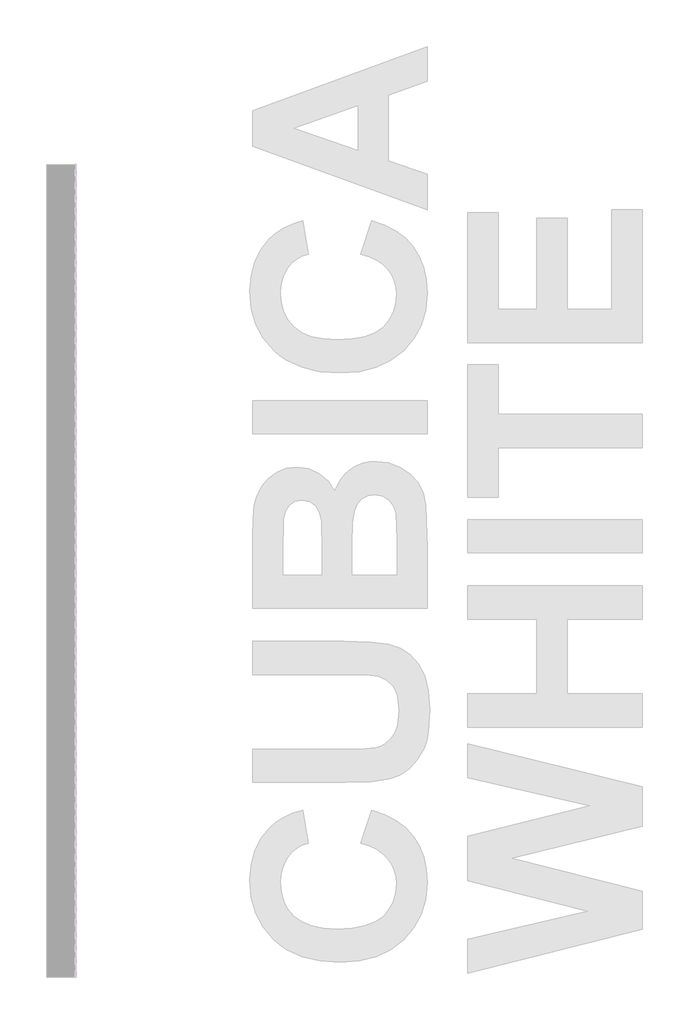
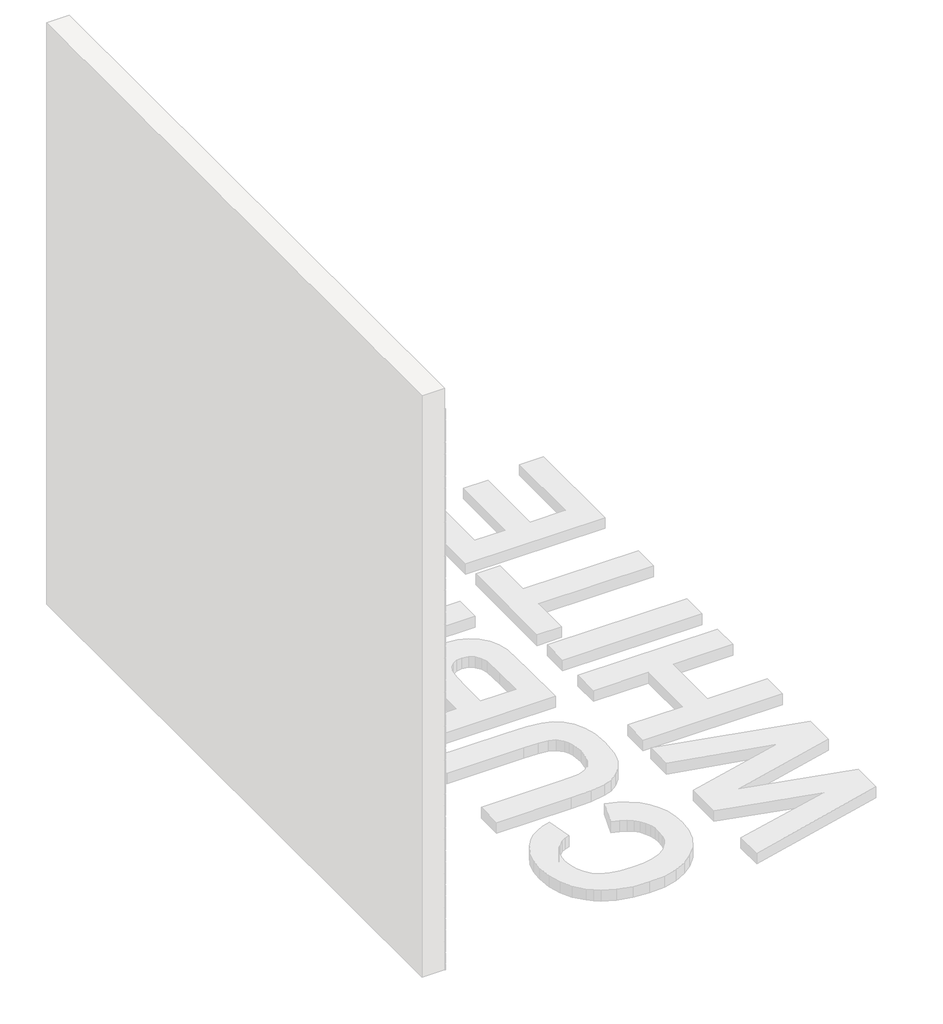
# One storey, part 105 of 121: 145 proxies.
"""IFC4 building model written with IfcOpenShell, lengths in millimetres."""

from ifc_helpers import new_model, si_unit, origin, place, context, project, spatial, transform, mapped, element, save
from components import generic_models_b2b2c5c1, generic_models_9bf73f6f, generic_models_5d175859

model = new_model("IFC4")

# Units and contexts
model_context = context("Model", 3, world=origin())
ifc_project = project(units=[si_unit("LENGTHUNIT", "METRE", prefix="MILLI")], contexts=[model_context])

# Site, building, storey
site = spatial("IfcSite", under=ifc_project)
building = spatial("IfcBuilding", under=site)
storey = spatial("IfcBuildingStorey", under=building, Name="PORTOBELLO - SHOWROOM", Elevation=0.0)

# Proxies
placement = place(None, origin())
generic_models_shape = generic_models_b2b2c5c1(model_context)
element("IfcBuildingElementProxy", 1, Name="PBSHOP - CUBICA WHITE 4,8X8,3 : CUBICA WHITE - POSIÇÃO 01", ObjectType="PBSHOP - CUBICA WHITE 4,8X8,3 : CUBICA WHITE - POSIÇÃO 01", at=placement, inside=storey, context=model_context, shape_type="MappedRepresentation", body=[
    mapped(generic_models_shape, transform((150369.5341846, 20014.1011688, 197.2914436), x_axis=(0.0, 1.0, 0.0), y_axis=(0.0, 0.0, 1.0), z_axis=(1.0, 0.0, 0.0))),
])
element("IfcBuildingElementProxy", 2, Name="PBSHOP - CUBICA WHITE 4,8X8,3 : CUBICA WHITE - POSIÇÃO 01", ObjectType="PBSHOP - CUBICA WHITE 4,8X8,3 : CUBICA WHITE - POSIÇÃO 01", at=placement, inside=storey, context=model_context, shape_type="MappedRepresentation", body=[
    mapped(generic_models_shape, transform((150369.5341846, 20104.940438, 197.2914436), x_axis=(0.0, 1.0, 0.0), y_axis=(0.0, 0.0, 1.0), z_axis=(1.0, 0.0, 0.0))),
])
element("IfcBuildingElementProxy", 3, Name="PBSHOP - CUBICA WHITE 4,8X8,3 : CUBICA WHITE - POSIÇÃO 01", ObjectType="PBSHOP - CUBICA WHITE 4,8X8,3 : CUBICA WHITE - POSIÇÃO 01", at=placement, inside=storey, context=model_context, shape_type="MappedRepresentation", body=[
    mapped(generic_models_shape, transform((150369.5341846, 20195.7797073, 197.2914436), x_axis=(0.0, 1.0, 0.0), y_axis=(0.0, 0.0, 1.0), z_axis=(1.0, 0.0, 0.0))),
])
element("IfcBuildingElementProxy", 4, Name="PBSHOP - CUBICA WHITE 4,8X8,3 : CUBICA WHITE - POSIÇÃO 01", ObjectType="PBSHOP - CUBICA WHITE 4,8X8,3 : CUBICA WHITE - POSIÇÃO 01", at=placement, inside=storey, context=model_context, shape_type="MappedRepresentation", body=[
    mapped(generic_models_shape, transform((150369.5341846, 20286.6189765, 197.2914436), x_axis=(0.0, 1.0, 0.0), y_axis=(0.0, 0.0, 1.0), z_axis=(1.0, 0.0, 0.0))),
])
element("IfcBuildingElementProxy", 5, Name="PBSHOP - CUBICA WHITE 4,8X8,3 : CUBICA WHITE - POSIÇÃO 01", ObjectType="PBSHOP - CUBICA WHITE 4,8X8,3 : CUBICA WHITE - POSIÇÃO 01", at=placement, inside=storey, context=model_context, shape_type="MappedRepresentation", body=[
    mapped(generic_models_shape, transform((150369.5341846, 20377.4582457, 197.2914436), x_axis=(0.0, 1.0, 0.0), y_axis=(0.0, 0.0, 1.0), z_axis=(1.0, 0.0, 0.0))),
])
element("IfcBuildingElementProxy", 6, Name="PBSHOP - CUBICA WHITE 4,8X8,3 : CUBICA WHITE - POSIÇÃO 01", ObjectType="PBSHOP - CUBICA WHITE 4,8X8,3 : CUBICA WHITE - POSIÇÃO 01", at=placement, inside=storey, context=model_context, shape_type="MappedRepresentation", body=[
    mapped(generic_models_shape, transform((150369.5341846, 20468.297515, 197.2914436), x_axis=(0.0, 1.0, 0.0), y_axis=(0.0, 0.0, 1.0), z_axis=(1.0, 0.0, 0.0))),
])
element("IfcBuildingElementProxy", 7, Name="PBSHOP - CUBICA WHITE 4,8X8,3 : CUBICA WHITE - POSIÇÃO 01", ObjectType="PBSHOP - CUBICA WHITE 4,8X8,3 : CUBICA WHITE - POSIÇÃO 01", at=placement, inside=storey, context=model_context, shape_type="MappedRepresentation", body=[
    mapped(generic_models_shape, transform((150369.5341846, 20559.1367842, 197.2914436), x_axis=(0.0, 1.0, 0.0), y_axis=(0.0, 0.0, 1.0), z_axis=(1.0, 0.0, 0.0))),
])
element("IfcBuildingElementProxy", 8, Name="PBSHOP - CUBICA WHITE 4,8X8,3 : CUBICA WHITE - POSIÇÃO 01", ObjectType="PBSHOP - CUBICA WHITE 4,8X8,3 : CUBICA WHITE - POSIÇÃO 01", at=placement, inside=storey, context=model_context, shape_type="MappedRepresentation", body=[
    mapped(generic_models_shape, transform((150369.5341846, 20649.9760535, 197.2914436), x_axis=(0.0, 1.0, 0.0), y_axis=(0.0, 0.0, 1.0), z_axis=(1.0, 0.0, 0.0))),
])
element("IfcBuildingElementProxy", 9, Name="PBSHOP - CUBICA WHITE 4,8X8,3 : CUBICA WHITE - POSIÇÃO 01", ObjectType="PBSHOP - CUBICA WHITE 4,8X8,3 : CUBICA WHITE - POSIÇÃO 01", at=placement, inside=storey, context=model_context, shape_type="MappedRepresentation", body=[
    mapped(generic_models_shape, transform((150369.5341846, 20740.8153227, 197.2914436), x_axis=(0.0, 1.0, 0.0), y_axis=(0.0, 0.0, 1.0), z_axis=(1.0, 0.0, 0.0))),
])
element("IfcBuildingElementProxy", 10, Name="PBSHOP - CUBICA WHITE 4,8X8,3 : CUBICA WHITE - POSIÇÃO 01", ObjectType="PBSHOP - CUBICA WHITE 4,8X8,3 : CUBICA WHITE - POSIÇÃO 01", at=placement, inside=storey, context=model_context, shape_type="MappedRepresentation", body=[
    mapped(generic_models_shape, transform((150369.5341846, 20831.654592, 197.2914436), x_axis=(0.0, 1.0, 0.0), y_axis=(0.0, 0.0, 1.0), z_axis=(1.0, 0.0, 0.0))),
])
element("IfcBuildingElementProxy", 11, Name="PBSHOP - CUBICA WHITE 4,8X8,3 : CUBICA WHITE - POSIÇÃO 01", ObjectType="PBSHOP - CUBICA WHITE 4,8X8,3 : CUBICA WHITE - POSIÇÃO 01", at=placement, inside=storey, context=model_context, shape_type="MappedRepresentation", body=[
    mapped(generic_models_shape, transform((150369.5341846, 20922.4938612, 197.2914436), x_axis=(0.0, 1.0, 0.0), y_axis=(0.0, 0.0, 1.0), z_axis=(1.0, 0.0, 0.0))),
])
element("IfcBuildingElementProxy", 12, Name="PBSHOP - CUBICA WHITE 4,8X8,3 : CUBICA WHITE - POSIÇÃO 01", ObjectType="PBSHOP - CUBICA WHITE 4,8X8,3 : CUBICA WHITE - POSIÇÃO 01", at=placement, inside=storey, context=model_context, shape_type="MappedRepresentation", body=[
    mapped(generic_models_shape, transform((150369.5341846, 20059.5208034, 276.2260819), x_axis=(0.0, 1.0, 0.0), y_axis=(0.0, 0.0, 1.0), z_axis=(1.0, 0.0, 0.0))),
])
element("IfcBuildingElementProxy", 13, Name="PBSHOP - CUBICA WHITE 4,8X8,3 : CUBICA WHITE - POSIÇÃO 01", ObjectType="PBSHOP - CUBICA WHITE 4,8X8,3 : CUBICA WHITE - POSIÇÃO 01", at=placement, inside=storey, context=model_context, shape_type="MappedRepresentation", body=[
    mapped(generic_models_shape, transform((150369.5341846, 20150.3600726, 276.2260819), x_axis=(0.0, 1.0, 0.0), y_axis=(0.0, 0.0, 1.0), z_axis=(1.0, 0.0, 0.0))),
])
element("IfcBuildingElementProxy", 14, Name="PBSHOP - CUBICA WHITE 4,8X8,3 : CUBICA WHITE - POSIÇÃO 01", ObjectType="PBSHOP - CUBICA WHITE 4,8X8,3 : CUBICA WHITE - POSIÇÃO 01", at=placement, inside=storey, context=model_context, shape_type="MappedRepresentation", body=[
    mapped(generic_models_shape, transform((150369.5341846, 20241.1993419, 276.2260819), x_axis=(0.0, 1.0, 0.0), y_axis=(0.0, 0.0, 1.0), z_axis=(1.0, 0.0, 0.0))),
])
element("IfcBuildingElementProxy", 15, Name="PBSHOP - CUBICA WHITE 4,8X8,3 : CUBICA WHITE - POSIÇÃO 01", ObjectType="PBSHOP - CUBICA WHITE 4,8X8,3 : CUBICA WHITE - POSIÇÃO 01", at=placement, inside=storey, context=model_context, shape_type="MappedRepresentation", body=[
    mapped(generic_models_shape, transform((150369.5341846, 20332.0386111, 276.2260819), x_axis=(0.0, 1.0, 0.0), y_axis=(0.0, 0.0, 1.0), z_axis=(1.0, 0.0, 0.0))),
])
element("IfcBuildingElementProxy", 16, Name="PBSHOP - CUBICA WHITE 4,8X8,3 : CUBICA WHITE - POSIÇÃO 01", ObjectType="PBSHOP - CUBICA WHITE 4,8X8,3 : CUBICA WHITE - POSIÇÃO 01", at=placement, inside=storey, context=model_context, shape_type="MappedRepresentation", body=[
    mapped(generic_models_shape, transform((150369.5341846, 20422.8778804, 276.2260819), x_axis=(0.0, 1.0, 0.0), y_axis=(0.0, 0.0, 1.0), z_axis=(1.0, 0.0, 0.0))),
])
element("IfcBuildingElementProxy", 17, Name="PBSHOP - CUBICA WHITE 4,8X8,3 : CUBICA WHITE - POSIÇÃO 01", ObjectType="PBSHOP - CUBICA WHITE 4,8X8,3 : CUBICA WHITE - POSIÇÃO 01", at=placement, inside=storey, context=model_context, shape_type="MappedRepresentation", body=[
    mapped(generic_models_shape, transform((150369.5341846, 20513.7171496, 276.2260819), x_axis=(0.0, 1.0, 0.0), y_axis=(0.0, 0.0, 1.0), z_axis=(1.0, 0.0, 0.0))),
])
element("IfcBuildingElementProxy", 18, Name="PBSHOP - CUBICA WHITE 4,8X8,3 : CUBICA WHITE - POSIÇÃO 01", ObjectType="PBSHOP - CUBICA WHITE 4,8X8,3 : CUBICA WHITE - POSIÇÃO 01", at=placement, inside=storey, context=model_context, shape_type="MappedRepresentation", body=[
    mapped(generic_models_shape, transform((150369.5341846, 20604.5564189, 276.2260819), x_axis=(0.0, 1.0, 0.0), y_axis=(0.0, 0.0, 1.0), z_axis=(1.0, 0.0, 0.0))),
])
element("IfcBuildingElementProxy", 19, Name="PBSHOP - CUBICA WHITE 4,8X8,3 : CUBICA WHITE - POSIÇÃO 01", ObjectType="PBSHOP - CUBICA WHITE 4,8X8,3 : CUBICA WHITE - POSIÇÃO 01", at=placement, inside=storey, context=model_context, shape_type="MappedRepresentation", body=[
    mapped(generic_models_shape, transform((150369.5341846, 20695.3956881, 276.2260819), x_axis=(0.0, 1.0, 0.0), y_axis=(0.0, 0.0, 1.0), z_axis=(1.0, 0.0, 0.0))),
])
element("IfcBuildingElementProxy", 20, Name="PBSHOP - CUBICA WHITE 4,8X8,3 : CUBICA WHITE - POSIÇÃO 01", ObjectType="PBSHOP - CUBICA WHITE 4,8X8,3 : CUBICA WHITE - POSIÇÃO 01", at=placement, inside=storey, context=model_context, shape_type="MappedRepresentation", body=[
    mapped(generic_models_shape, transform((150369.5341846, 20786.2349573, 276.2260819), x_axis=(0.0, 1.0, 0.0), y_axis=(0.0, 0.0, 1.0), z_axis=(1.0, 0.0, 0.0))),
])
element("IfcBuildingElementProxy", 21, Name="PBSHOP - CUBICA WHITE 4,8X8,3 : CUBICA WHITE - POSIÇÃO 01", ObjectType="PBSHOP - CUBICA WHITE 4,8X8,3 : CUBICA WHITE - POSIÇÃO 01", at=placement, inside=storey, context=model_context, shape_type="MappedRepresentation", body=[
    mapped(generic_models_shape, transform((150369.5341846, 20877.0742266, 276.2260819), x_axis=(0.0, 1.0, 0.0), y_axis=(0.0, 0.0, 1.0), z_axis=(1.0, 0.0, 0.0))),
])
element("IfcBuildingElementProxy", 22, Name="PBSHOP - CUBICA WHITE 4,8X8,3 : CUBICA WHITE - POSIÇÃO 01", ObjectType="PBSHOP - CUBICA WHITE 4,8X8,3 : CUBICA WHITE - POSIÇÃO 01", at=placement, inside=storey, context=model_context, shape_type="MappedRepresentation", body=[
    mapped(generic_models_shape, transform((150369.5341846, 20967.9134958, 276.2260819), x_axis=(0.0, 1.0, 0.0), y_axis=(0.0, 0.0, 1.0), z_axis=(1.0, 0.0, 0.0))),
])
element("IfcBuildingElementProxy", 23, Name="PBSHOP - CUBICA WHITE 4,8X8,3 : CUBICA WHITE - POSIÇÃO 01", ObjectType="PBSHOP - CUBICA WHITE 4,8X8,3 : CUBICA WHITE - POSIÇÃO 01", at=placement, inside=storey, context=model_context, shape_type="MappedRepresentation", body=[
    mapped(generic_models_shape, transform((150369.5341846, 20014.1011688, 355.1607203), x_axis=(0.0, 1.0, 0.0), y_axis=(0.0, 0.0, 1.0), z_axis=(1.0, 0.0, 0.0))),
])
element("IfcBuildingElementProxy", 24, Name="PBSHOP - CUBICA WHITE 4,8X8,3 : CUBICA WHITE - POSIÇÃO 01", ObjectType="PBSHOP - CUBICA WHITE 4,8X8,3 : CUBICA WHITE - POSIÇÃO 01", at=placement, inside=storey, context=model_context, shape_type="MappedRepresentation", body=[
    mapped(generic_models_shape, transform((150369.5341846, 20104.940438, 355.1607203), x_axis=(0.0, 1.0, 0.0), y_axis=(0.0, 0.0, 1.0), z_axis=(1.0, 0.0, 0.0))),
])
element("IfcBuildingElementProxy", 25, Name="PBSHOP - CUBICA WHITE 4,8X8,3 : CUBICA WHITE - POSIÇÃO 01", ObjectType="PBSHOP - CUBICA WHITE 4,8X8,3 : CUBICA WHITE - POSIÇÃO 01", at=placement, inside=storey, context=model_context, shape_type="MappedRepresentation", body=[
    mapped(generic_models_shape, transform((150369.5341846, 20195.7797073, 355.1607203), x_axis=(0.0, 1.0, 0.0), y_axis=(0.0, 0.0, 1.0), z_axis=(1.0, 0.0, 0.0))),
])
element("IfcBuildingElementProxy", 26, Name="PBSHOP - CUBICA WHITE 4,8X8,3 : CUBICA WHITE - POSIÇÃO 01", ObjectType="PBSHOP - CUBICA WHITE 4,8X8,3 : CUBICA WHITE - POSIÇÃO 01", at=placement, inside=storey, context=model_context, shape_type="MappedRepresentation", body=[
    mapped(generic_models_shape, transform((150369.5341846, 20286.6189765, 355.1607203), x_axis=(0.0, 1.0, 0.0), y_axis=(0.0, 0.0, 1.0), z_axis=(1.0, 0.0, 0.0))),
])
element("IfcBuildingElementProxy", 27, Name="PBSHOP - CUBICA WHITE 4,8X8,3 : CUBICA WHITE - POSIÇÃO 01", ObjectType="PBSHOP - CUBICA WHITE 4,8X8,3 : CUBICA WHITE - POSIÇÃO 01", at=placement, inside=storey, context=model_context, shape_type="MappedRepresentation", body=[
    mapped(generic_models_shape, transform((150369.5341846, 20377.4582457, 355.1607203), x_axis=(0.0, 1.0, 0.0), y_axis=(0.0, 0.0, 1.0), z_axis=(1.0, 0.0, 0.0))),
])
element("IfcBuildingElementProxy", 28, Name="PBSHOP - CUBICA WHITE 4,8X8,3 : CUBICA WHITE - POSIÇÃO 01", ObjectType="PBSHOP - CUBICA WHITE 4,8X8,3 : CUBICA WHITE - POSIÇÃO 01", at=placement, inside=storey, context=model_context, shape_type="MappedRepresentation", body=[
    mapped(generic_models_shape, transform((150369.5341846, 20468.297515, 355.1607203), x_axis=(0.0, 1.0, 0.0), y_axis=(0.0, 0.0, 1.0), z_axis=(1.0, 0.0, 0.0))),
])
element("IfcBuildingElementProxy", 29, Name="PBSHOP - CUBICA WHITE 4,8X8,3 : CUBICA WHITE - POSIÇÃO 01", ObjectType="PBSHOP - CUBICA WHITE 4,8X8,3 : CUBICA WHITE - POSIÇÃO 01", at=placement, inside=storey, context=model_context, shape_type="MappedRepresentation", body=[
    mapped(generic_models_shape, transform((150369.5341846, 20559.1367842, 355.1607203), x_axis=(0.0, 1.0, 0.0), y_axis=(0.0, 0.0, 1.0), z_axis=(1.0, 0.0, 0.0))),
])
element("IfcBuildingElementProxy", 30, Name="PBSHOP - CUBICA WHITE 4,8X8,3 : CUBICA WHITE - POSIÇÃO 01", ObjectType="PBSHOP - CUBICA WHITE 4,8X8,3 : CUBICA WHITE - POSIÇÃO 01", at=placement, inside=storey, context=model_context, shape_type="MappedRepresentation", body=[
    mapped(generic_models_shape, transform((150369.5341846, 20649.9760535, 355.1607203), x_axis=(0.0, 1.0, 0.0), y_axis=(0.0, 0.0, 1.0), z_axis=(1.0, 0.0, 0.0))),
])
element("IfcBuildingElementProxy", 31, Name="PBSHOP - CUBICA WHITE 4,8X8,3 : CUBICA WHITE - POSIÇÃO 01", ObjectType="PBSHOP - CUBICA WHITE 4,8X8,3 : CUBICA WHITE - POSIÇÃO 01", at=placement, inside=storey, context=model_context, shape_type="MappedRepresentation", body=[
    mapped(generic_models_shape, transform((150369.5341846, 20740.8153227, 355.1607203), x_axis=(0.0, 1.0, 0.0), y_axis=(0.0, 0.0, 1.0), z_axis=(1.0, 0.0, 0.0))),
])
element("IfcBuildingElementProxy", 32, Name="PBSHOP - CUBICA WHITE 4,8X8,3 : CUBICA WHITE - POSIÇÃO 01", ObjectType="PBSHOP - CUBICA WHITE 4,8X8,3 : CUBICA WHITE - POSIÇÃO 01", at=placement, inside=storey, context=model_context, shape_type="MappedRepresentation", body=[
    mapped(generic_models_shape, transform((150369.5341846, 20831.654592, 355.1607203), x_axis=(0.0, 1.0, 0.0), y_axis=(0.0, 0.0, 1.0), z_axis=(1.0, 0.0, 0.0))),
])
element("IfcBuildingElementProxy", 33, Name="PBSHOP - CUBICA WHITE 4,8X8,3 : CUBICA WHITE - POSIÇÃO 01", ObjectType="PBSHOP - CUBICA WHITE 4,8X8,3 : CUBICA WHITE - POSIÇÃO 01", at=placement, inside=storey, context=model_context, shape_type="MappedRepresentation", body=[
    mapped(generic_models_shape, transform((150369.5341846, 20922.4938612, 355.1607203), x_axis=(0.0, 1.0, 0.0), y_axis=(0.0, 0.0, 1.0), z_axis=(1.0, 0.0, 0.0))),
])
element("IfcBuildingElementProxy", 34, Name="PBSHOP - CUBICA WHITE 4,8X8,3 : CUBICA WHITE - POSIÇÃO 01", ObjectType="PBSHOP - CUBICA WHITE 4,8X8,3 : CUBICA WHITE - POSIÇÃO 01", at=placement, inside=storey, context=model_context, shape_type="MappedRepresentation", body=[
    mapped(generic_models_shape, transform((150369.5341846, 20059.5208034, 434.0953587), x_axis=(0.0, 1.0, 0.0), y_axis=(0.0, 0.0, 1.0), z_axis=(1.0, 0.0, 0.0))),
])
element("IfcBuildingElementProxy", 35, Name="PBSHOP - CUBICA WHITE 4,8X8,3 : CUBICA WHITE - POSIÇÃO 01", ObjectType="PBSHOP - CUBICA WHITE 4,8X8,3 : CUBICA WHITE - POSIÇÃO 01", at=placement, inside=storey, context=model_context, shape_type="MappedRepresentation", body=[
    mapped(generic_models_shape, transform((150369.5341846, 20150.3600726, 434.0953587), x_axis=(0.0, 1.0, 0.0), y_axis=(0.0, 0.0, 1.0), z_axis=(1.0, 0.0, 0.0))),
])
element("IfcBuildingElementProxy", 36, Name="PBSHOP - CUBICA WHITE 4,8X8,3 : CUBICA WHITE - POSIÇÃO 01", ObjectType="PBSHOP - CUBICA WHITE 4,8X8,3 : CUBICA WHITE - POSIÇÃO 01", at=placement, inside=storey, context=model_context, shape_type="MappedRepresentation", body=[
    mapped(generic_models_shape, transform((150369.5341846, 20241.1993419, 434.0953587), x_axis=(0.0, 1.0, 0.0), y_axis=(0.0, 0.0, 1.0), z_axis=(1.0, 0.0, 0.0))),
])
element("IfcBuildingElementProxy", 37, Name="PBSHOP - CUBICA WHITE 4,8X8,3 : CUBICA WHITE - POSIÇÃO 01", ObjectType="PBSHOP - CUBICA WHITE 4,8X8,3 : CUBICA WHITE - POSIÇÃO 01", at=placement, inside=storey, context=model_context, shape_type="MappedRepresentation", body=[
    mapped(generic_models_shape, transform((150369.5341846, 20332.0386111, 434.0953587), x_axis=(0.0, 1.0, 0.0), y_axis=(0.0, 0.0, 1.0), z_axis=(1.0, 0.0, 0.0))),
])
element("IfcBuildingElementProxy", 38, Name="PBSHOP - CUBICA WHITE 4,8X8,3 : CUBICA WHITE - POSIÇÃO 01", ObjectType="PBSHOP - CUBICA WHITE 4,8X8,3 : CUBICA WHITE - POSIÇÃO 01", at=placement, inside=storey, context=model_context, shape_type="MappedRepresentation", body=[
    mapped(generic_models_shape, transform((150369.5341846, 20422.8778804, 434.0953587), x_axis=(0.0, 1.0, 0.0), y_axis=(0.0, 0.0, 1.0), z_axis=(1.0, 0.0, 0.0))),
])
element("IfcBuildingElementProxy", 39, Name="PBSHOP - CUBICA WHITE 4,8X8,3 : CUBICA WHITE - POSIÇÃO 01", ObjectType="PBSHOP - CUBICA WHITE 4,8X8,3 : CUBICA WHITE - POSIÇÃO 01", at=placement, inside=storey, context=model_context, shape_type="MappedRepresentation", body=[
    mapped(generic_models_shape, transform((150369.5341846, 20513.7171496, 434.0953587), x_axis=(0.0, 1.0, 0.0), y_axis=(0.0, 0.0, 1.0), z_axis=(1.0, 0.0, 0.0))),
])
element("IfcBuildingElementProxy", 40, Name="PBSHOP - CUBICA WHITE 4,8X8,3 : CUBICA WHITE - POSIÇÃO 01", ObjectType="PBSHOP - CUBICA WHITE 4,8X8,3 : CUBICA WHITE - POSIÇÃO 01", at=placement, inside=storey, context=model_context, shape_type="MappedRepresentation", body=[
    mapped(generic_models_shape, transform((150369.5341846, 20604.5564189, 434.0953587), x_axis=(0.0, 1.0, 0.0), y_axis=(0.0, 0.0, 1.0), z_axis=(1.0, 0.0, 0.0))),
])
element("IfcBuildingElementProxy", 41, Name="PBSHOP - CUBICA WHITE 4,8X8,3 : CUBICA WHITE - POSIÇÃO 01", ObjectType="PBSHOP - CUBICA WHITE 4,8X8,3 : CUBICA WHITE - POSIÇÃO 01", at=placement, inside=storey, context=model_context, shape_type="MappedRepresentation", body=[
    mapped(generic_models_shape, transform((150369.5341846, 20695.3956881, 434.0953587), x_axis=(0.0, 1.0, 0.0), y_axis=(0.0, 0.0, 1.0), z_axis=(1.0, 0.0, 0.0))),
])
element("IfcBuildingElementProxy", 42, Name="PBSHOP - CUBICA WHITE 4,8X8,3 : CUBICA WHITE - POSIÇÃO 01", ObjectType="PBSHOP - CUBICA WHITE 4,8X8,3 : CUBICA WHITE - POSIÇÃO 01", at=placement, inside=storey, context=model_context, shape_type="MappedRepresentation", body=[
    mapped(generic_models_shape, transform((150369.5341846, 20786.2349573, 434.0953587), x_axis=(0.0, 1.0, 0.0), y_axis=(0.0, 0.0, 1.0), z_axis=(1.0, 0.0, 0.0))),
])
element("IfcBuildingElementProxy", 43, Name="PBSHOP - CUBICA WHITE 4,8X8,3 : CUBICA WHITE - POSIÇÃO 01", ObjectType="PBSHOP - CUBICA WHITE 4,8X8,3 : CUBICA WHITE - POSIÇÃO 01", at=placement, inside=storey, context=model_context, shape_type="MappedRepresentation", body=[
    mapped(generic_models_shape, transform((150369.5341846, 20877.0742266, 434.0953587), x_axis=(0.0, 1.0, 0.0), y_axis=(0.0, 0.0, 1.0), z_axis=(1.0, 0.0, 0.0))),
])
element("IfcBuildingElementProxy", 44, Name="PBSHOP - CUBICA WHITE 4,8X8,3 : CUBICA WHITE - POSIÇÃO 01", ObjectType="PBSHOP - CUBICA WHITE 4,8X8,3 : CUBICA WHITE - POSIÇÃO 01", at=placement, inside=storey, context=model_context, shape_type="MappedRepresentation", body=[
    mapped(generic_models_shape, transform((150369.5341846, 20967.9134958, 434.0953587), x_axis=(0.0, 1.0, 0.0), y_axis=(0.0, 0.0, 1.0), z_axis=(1.0, 0.0, 0.0))),
])
element("IfcBuildingElementProxy", 45, Name="PBSHOP - CUBICA WHITE 4,8X8,3 : CUBICA WHITE - POSIÇÃO 01", ObjectType="PBSHOP - CUBICA WHITE 4,8X8,3 : CUBICA WHITE - POSIÇÃO 01", at=placement, inside=storey, context=model_context, shape_type="MappedRepresentation", body=[
    mapped(generic_models_shape, transform((150369.5341846, 20014.1011688, 513.0299971), x_axis=(0.0, 1.0, 0.0), y_axis=(0.0, 0.0, 1.0), z_axis=(1.0, 0.0, 0.0))),
])
element("IfcBuildingElementProxy", 46, Name="PBSHOP - CUBICA WHITE 4,8X8,3 : CUBICA WHITE - POSIÇÃO 01", ObjectType="PBSHOP - CUBICA WHITE 4,8X8,3 : CUBICA WHITE - POSIÇÃO 01", at=placement, inside=storey, context=model_context, shape_type="MappedRepresentation", body=[
    mapped(generic_models_shape, transform((150369.5341846, 20104.940438, 513.0299971), x_axis=(0.0, 1.0, 0.0), y_axis=(0.0, 0.0, 1.0), z_axis=(1.0, 0.0, 0.0))),
])
generic_models_2_shape = generic_models_9bf73f6f(model_context)
element("IfcBuildingElementProxy", 47, Name="PBSHOP - CUBICA WHITE 4,8X8,3 : CUBICA WHITE - POSIÇÃO 03", ObjectType="PBSHOP - CUBICA WHITE 4,8X8,3 : CUBICA WHITE - POSIÇÃO 03", at=placement, inside=storey, context=model_context, shape_type="MappedRepresentation", body=[
    mapped(generic_models_2_shape, transform((150369.5341846, 20127.6524145, 78.8482756), x_axis=(0.0, 1.0, 0.0), y_axis=(0.0, 0.0, 1.0), z_axis=(1.0, 0.0, 0.0))),
])
element("IfcBuildingElementProxy", 48, Name="PBSHOP - CUBICA WHITE 4,8X8,3 : CUBICA WHITE - POSIÇÃO 03", ObjectType="PBSHOP - CUBICA WHITE 4,8X8,3 : CUBICA WHITE - POSIÇÃO 03", at=placement, inside=storey, context=model_context, shape_type="MappedRepresentation", body=[
    mapped(generic_models_2_shape, transform((150369.5341846, 20218.4916837, 78.8482756), x_axis=(0.0, 1.0, 0.0), y_axis=(0.0, 0.0, 1.0), z_axis=(1.0, 0.0, 0.0))),
])
element("IfcBuildingElementProxy", 49, Name="PBSHOP - CUBICA WHITE 4,8X8,3 : CUBICA WHITE - POSIÇÃO 03", ObjectType="PBSHOP - CUBICA WHITE 4,8X8,3 : CUBICA WHITE - POSIÇÃO 03", at=placement, inside=storey, context=model_context, shape_type="MappedRepresentation", body=[
    mapped(generic_models_2_shape, transform((150369.5341846, 20309.330953, 78.8482756), x_axis=(0.0, 1.0, 0.0), y_axis=(0.0, 0.0, 1.0), z_axis=(1.0, 0.0, 0.0))),
])
element("IfcBuildingElementProxy", 50, Name="PBSHOP - CUBICA WHITE 4,8X8,3 : CUBICA WHITE - POSIÇÃO 03", ObjectType="PBSHOP - CUBICA WHITE 4,8X8,3 : CUBICA WHITE - POSIÇÃO 03", at=placement, inside=storey, context=model_context, shape_type="MappedRepresentation", body=[
    mapped(generic_models_2_shape, transform((150369.5341846, 20400.1702222, 78.8482756), x_axis=(0.0, 1.0, 0.0), y_axis=(0.0, 0.0, 1.0), z_axis=(1.0, 0.0, 0.0))),
])
element("IfcBuildingElementProxy", 51, Name="PBSHOP - CUBICA WHITE 4,8X8,3 : CUBICA WHITE - POSIÇÃO 03", ObjectType="PBSHOP - CUBICA WHITE 4,8X8,3 : CUBICA WHITE - POSIÇÃO 03", at=placement, inside=storey, context=model_context, shape_type="MappedRepresentation", body=[
    mapped(generic_models_2_shape, transform((150369.5341846, 20491.0094915, 78.8482756), x_axis=(0.0, 1.0, 0.0), y_axis=(0.0, 0.0, 1.0), z_axis=(1.0, 0.0, 0.0))),
])
element("IfcBuildingElementProxy", 52, Name="PBSHOP - CUBICA WHITE 4,8X8,3 : CUBICA WHITE - POSIÇÃO 03", ObjectType="PBSHOP - CUBICA WHITE 4,8X8,3 : CUBICA WHITE - POSIÇÃO 03", at=placement, inside=storey, context=model_context, shape_type="MappedRepresentation", body=[
    mapped(generic_models_2_shape, transform((150369.5341846, 20581.8487607, 78.8482756), x_axis=(0.0, 1.0, 0.0), y_axis=(0.0, 0.0, 1.0), z_axis=(1.0, 0.0, 0.0))),
])
element("IfcBuildingElementProxy", 53, Name="PBSHOP - CUBICA WHITE 4,8X8,3 : CUBICA WHITE - POSIÇÃO 03", ObjectType="PBSHOP - CUBICA WHITE 4,8X8,3 : CUBICA WHITE - POSIÇÃO 03", at=placement, inside=storey, context=model_context, shape_type="MappedRepresentation", body=[
    mapped(generic_models_2_shape, transform((150369.5341846, 20672.6880299, 78.8482756), x_axis=(0.0, 1.0, 0.0), y_axis=(0.0, 0.0, 1.0), z_axis=(1.0, 0.0, 0.0))),
])
element("IfcBuildingElementProxy", 54, Name="PBSHOP - CUBICA WHITE 4,8X8,3 : CUBICA WHITE - POSIÇÃO 03", ObjectType="PBSHOP - CUBICA WHITE 4,8X8,3 : CUBICA WHITE - POSIÇÃO 03", at=placement, inside=storey, context=model_context, shape_type="MappedRepresentation", body=[
    mapped(generic_models_2_shape, transform((150369.5341846, 20763.5272992, 78.8482756), x_axis=(0.0, 1.0, 0.0), y_axis=(0.0, 0.0, 1.0), z_axis=(1.0, 0.0, 0.0))),
])
element("IfcBuildingElementProxy", 55, Name="PBSHOP - CUBICA WHITE 4,8X8,3 : CUBICA WHITE - POSIÇÃO 03", ObjectType="PBSHOP - CUBICA WHITE 4,8X8,3 : CUBICA WHITE - POSIÇÃO 03", at=placement, inside=storey, context=model_context, shape_type="MappedRepresentation", body=[
    mapped(generic_models_2_shape, transform((150369.5341846, 20854.3665684, 78.8482756), x_axis=(0.0, 1.0, 0.0), y_axis=(0.0, 0.0, 1.0), z_axis=(1.0, 0.0, 0.0))),
])
element("IfcBuildingElementProxy", 56, Name="PBSHOP - CUBICA WHITE 4,8X8,3 : CUBICA WHITE - POSIÇÃO 03", ObjectType="PBSHOP - CUBICA WHITE 4,8X8,3 : CUBICA WHITE - POSIÇÃO 03", at=placement, inside=storey, context=model_context, shape_type="MappedRepresentation", body=[
    mapped(generic_models_2_shape, transform((150369.5341846, 20945.2058377, 78.8482756), x_axis=(0.0, 1.0, 0.0), y_axis=(0.0, 0.0, 1.0), z_axis=(1.0, 0.0, 0.0))),
])
element("IfcBuildingElementProxy", 57, Name="PBSHOP - CUBICA WHITE 4,8X8,3 : CUBICA WHITE - POSIÇÃO 03", ObjectType="PBSHOP - CUBICA WHITE 4,8X8,3 : CUBICA WHITE - POSIÇÃO 03", at=placement, inside=storey, context=model_context, shape_type="MappedRepresentation", body=[
    mapped(generic_models_2_shape, transform((150369.5341846, 20082.2327799, 157.7829139), x_axis=(0.0, 1.0, 0.0), y_axis=(0.0, 0.0, 1.0), z_axis=(1.0, 0.0, 0.0))),
])
element("IfcBuildingElementProxy", 58, Name="PBSHOP - CUBICA WHITE 4,8X8,3 : CUBICA WHITE - POSIÇÃO 03", ObjectType="PBSHOP - CUBICA WHITE 4,8X8,3 : CUBICA WHITE - POSIÇÃO 03", at=placement, inside=storey, context=model_context, shape_type="MappedRepresentation", body=[
    mapped(generic_models_2_shape, transform((150369.5341846, 20173.0720491, 157.7829139), x_axis=(0.0, 1.0, 0.0), y_axis=(0.0, 0.0, 1.0), z_axis=(1.0, 0.0, 0.0))),
])
element("IfcBuildingElementProxy", 59, Name="PBSHOP - CUBICA WHITE 4,8X8,3 : CUBICA WHITE - POSIÇÃO 03", ObjectType="PBSHOP - CUBICA WHITE 4,8X8,3 : CUBICA WHITE - POSIÇÃO 03", at=placement, inside=storey, context=model_context, shape_type="MappedRepresentation", body=[
    mapped(generic_models_2_shape, transform((150369.5341846, 20263.9113184, 157.7829139), x_axis=(0.0, 1.0, 0.0), y_axis=(0.0, 0.0, 1.0), z_axis=(1.0, 0.0, 0.0))),
])
element("IfcBuildingElementProxy", 60, Name="PBSHOP - CUBICA WHITE 4,8X8,3 : CUBICA WHITE - POSIÇÃO 03", ObjectType="PBSHOP - CUBICA WHITE 4,8X8,3 : CUBICA WHITE - POSIÇÃO 03", at=placement, inside=storey, context=model_context, shape_type="MappedRepresentation", body=[
    mapped(generic_models_2_shape, transform((150369.5341846, 20354.7505876, 157.7829139), x_axis=(0.0, 1.0, 0.0), y_axis=(0.0, 0.0, 1.0), z_axis=(1.0, 0.0, 0.0))),
])
element("IfcBuildingElementProxy", 61, Name="PBSHOP - CUBICA WHITE 4,8X8,3 : CUBICA WHITE - POSIÇÃO 03", ObjectType="PBSHOP - CUBICA WHITE 4,8X8,3 : CUBICA WHITE - POSIÇÃO 03", at=placement, inside=storey, context=model_context, shape_type="MappedRepresentation", body=[
    mapped(generic_models_2_shape, transform((150369.5341846, 20445.5898568, 157.7829139), x_axis=(0.0, 1.0, 0.0), y_axis=(0.0, 0.0, 1.0), z_axis=(1.0, 0.0, 0.0))),
])
element("IfcBuildingElementProxy", 62, Name="PBSHOP - CUBICA WHITE 4,8X8,3 : CUBICA WHITE - POSIÇÃO 03", ObjectType="PBSHOP - CUBICA WHITE 4,8X8,3 : CUBICA WHITE - POSIÇÃO 03", at=placement, inside=storey, context=model_context, shape_type="MappedRepresentation", body=[
    mapped(generic_models_2_shape, transform((150369.5341846, 20536.4291261, 157.7829139), x_axis=(0.0, 1.0, 0.0), y_axis=(0.0, 0.0, 1.0), z_axis=(1.0, 0.0, 0.0))),
])
element("IfcBuildingElementProxy", 63, Name="PBSHOP - CUBICA WHITE 4,8X8,3 : CUBICA WHITE - POSIÇÃO 03", ObjectType="PBSHOP - CUBICA WHITE 4,8X8,3 : CUBICA WHITE - POSIÇÃO 03", at=placement, inside=storey, context=model_context, shape_type="MappedRepresentation", body=[
    mapped(generic_models_2_shape, transform((150369.5341846, 20627.2683953, 157.7829139), x_axis=(0.0, 1.0, 0.0), y_axis=(0.0, 0.0, 1.0), z_axis=(1.0, 0.0, 0.0))),
])
element("IfcBuildingElementProxy", 64, Name="PBSHOP - CUBICA WHITE 4,8X8,3 : CUBICA WHITE - POSIÇÃO 03", ObjectType="PBSHOP - CUBICA WHITE 4,8X8,3 : CUBICA WHITE - POSIÇÃO 03", at=placement, inside=storey, context=model_context, shape_type="MappedRepresentation", body=[
    mapped(generic_models_2_shape, transform((150369.5341846, 20718.1076646, 157.7829139), x_axis=(0.0, 1.0, 0.0), y_axis=(0.0, 0.0, 1.0), z_axis=(1.0, 0.0, 0.0))),
])
element("IfcBuildingElementProxy", 65, Name="PBSHOP - CUBICA WHITE 4,8X8,3 : CUBICA WHITE - POSIÇÃO 03", ObjectType="PBSHOP - CUBICA WHITE 4,8X8,3 : CUBICA WHITE - POSIÇÃO 03", at=placement, inside=storey, context=model_context, shape_type="MappedRepresentation", body=[
    mapped(generic_models_2_shape, transform((150369.5341846, 20808.9469338, 157.7829139), x_axis=(0.0, 1.0, 0.0), y_axis=(0.0, 0.0, 1.0), z_axis=(1.0, 0.0, 0.0))),
])
element("IfcBuildingElementProxy", 66, Name="PBSHOP - CUBICA WHITE 4,8X8,3 : CUBICA WHITE - POSIÇÃO 03", ObjectType="PBSHOP - CUBICA WHITE 4,8X8,3 : CUBICA WHITE - POSIÇÃO 03", at=placement, inside=storey, context=model_context, shape_type="MappedRepresentation", body=[
    mapped(generic_models_2_shape, transform((150369.5341846, 20899.7862031, 157.7829139), x_axis=(0.0, 1.0, 0.0), y_axis=(0.0, 0.0, 1.0), z_axis=(1.0, 0.0, 0.0))),
])
element("IfcBuildingElementProxy", 67, Name="PBSHOP - CUBICA WHITE 4,8X8,3 : CUBICA WHITE - POSIÇÃO 03", ObjectType="PBSHOP - CUBICA WHITE 4,8X8,3 : CUBICA WHITE - POSIÇÃO 03", at=placement, inside=storey, context=model_context, shape_type="MappedRepresentation", body=[
    mapped(generic_models_2_shape, transform((150369.5341846, 20990.6254723, 157.7829139), x_axis=(0.0, 1.0, 0.0), y_axis=(0.0, 0.0, 1.0), z_axis=(1.0, 0.0, 0.0))),
])
element("IfcBuildingElementProxy", 68, Name="PBSHOP - CUBICA WHITE 4,8X8,3 : CUBICA WHITE - POSIÇÃO 03", ObjectType="PBSHOP - CUBICA WHITE 4,8X8,3 : CUBICA WHITE - POSIÇÃO 03", at=placement, inside=storey, context=model_context, shape_type="MappedRepresentation", body=[
    mapped(generic_models_2_shape, transform((150369.5341846, 20036.8131452, 236.7175523), x_axis=(0.0, 1.0, 0.0), y_axis=(0.0, 0.0, 1.0), z_axis=(1.0, 0.0, 0.0))),
])
element("IfcBuildingElementProxy", 69, Name="PBSHOP - CUBICA WHITE 4,8X8,3 : CUBICA WHITE - POSIÇÃO 03", ObjectType="PBSHOP - CUBICA WHITE 4,8X8,3 : CUBICA WHITE - POSIÇÃO 03", at=placement, inside=storey, context=model_context, shape_type="MappedRepresentation", body=[
    mapped(generic_models_2_shape, transform((150369.5341846, 20127.6524145, 236.7175523), x_axis=(0.0, 1.0, 0.0), y_axis=(0.0, 0.0, 1.0), z_axis=(1.0, 0.0, 0.0))),
])
element("IfcBuildingElementProxy", 70, Name="PBSHOP - CUBICA WHITE 4,8X8,3 : CUBICA WHITE - POSIÇÃO 03", ObjectType="PBSHOP - CUBICA WHITE 4,8X8,3 : CUBICA WHITE - POSIÇÃO 03", at=placement, inside=storey, context=model_context, shape_type="MappedRepresentation", body=[
    mapped(generic_models_2_shape, transform((150369.5341846, 20218.4916837, 236.7175523), x_axis=(0.0, 1.0, 0.0), y_axis=(0.0, 0.0, 1.0), z_axis=(1.0, 0.0, 0.0))),
])
element("IfcBuildingElementProxy", 71, Name="PBSHOP - CUBICA WHITE 4,8X8,3 : CUBICA WHITE - POSIÇÃO 03", ObjectType="PBSHOP - CUBICA WHITE 4,8X8,3 : CUBICA WHITE - POSIÇÃO 03", at=placement, inside=storey, context=model_context, shape_type="MappedRepresentation", body=[
    mapped(generic_models_2_shape, transform((150369.5341846, 20309.330953, 236.7175523), x_axis=(0.0, 1.0, 0.0), y_axis=(0.0, 0.0, 1.0), z_axis=(1.0, 0.0, 0.0))),
])
element("IfcBuildingElementProxy", 72, Name="PBSHOP - CUBICA WHITE 4,8X8,3 : CUBICA WHITE - POSIÇÃO 03", ObjectType="PBSHOP - CUBICA WHITE 4,8X8,3 : CUBICA WHITE - POSIÇÃO 03", at=placement, inside=storey, context=model_context, shape_type="MappedRepresentation", body=[
    mapped(generic_models_2_shape, transform((150369.5341846, 20400.1702222, 236.7175523), x_axis=(0.0, 1.0, 0.0), y_axis=(0.0, 0.0, 1.0), z_axis=(1.0, 0.0, 0.0))),
])
element("IfcBuildingElementProxy", 73, Name="PBSHOP - CUBICA WHITE 4,8X8,3 : CUBICA WHITE - POSIÇÃO 03", ObjectType="PBSHOP - CUBICA WHITE 4,8X8,3 : CUBICA WHITE - POSIÇÃO 03", at=placement, inside=storey, context=model_context, shape_type="MappedRepresentation", body=[
    mapped(generic_models_2_shape, transform((150369.5341846, 20491.0094915, 236.7175523), x_axis=(0.0, 1.0, 0.0), y_axis=(0.0, 0.0, 1.0), z_axis=(1.0, 0.0, 0.0))),
])
element("IfcBuildingElementProxy", 74, Name="PBSHOP - CUBICA WHITE 4,8X8,3 : CUBICA WHITE - POSIÇÃO 03", ObjectType="PBSHOP - CUBICA WHITE 4,8X8,3 : CUBICA WHITE - POSIÇÃO 03", at=placement, inside=storey, context=model_context, shape_type="MappedRepresentation", body=[
    mapped(generic_models_2_shape, transform((150369.5341846, 20581.8487607, 236.7175523), x_axis=(0.0, 1.0, 0.0), y_axis=(0.0, 0.0, 1.0), z_axis=(1.0, 0.0, 0.0))),
])
element("IfcBuildingElementProxy", 75, Name="PBSHOP - CUBICA WHITE 4,8X8,3 : CUBICA WHITE - POSIÇÃO 03", ObjectType="PBSHOP - CUBICA WHITE 4,8X8,3 : CUBICA WHITE - POSIÇÃO 03", at=placement, inside=storey, context=model_context, shape_type="MappedRepresentation", body=[
    mapped(generic_models_2_shape, transform((150369.5341846, 20672.6880299, 236.7175523), x_axis=(0.0, 1.0, 0.0), y_axis=(0.0, 0.0, 1.0), z_axis=(1.0, 0.0, 0.0))),
])
element("IfcBuildingElementProxy", 76, Name="PBSHOP - CUBICA WHITE 4,8X8,3 : CUBICA WHITE - POSIÇÃO 03", ObjectType="PBSHOP - CUBICA WHITE 4,8X8,3 : CUBICA WHITE - POSIÇÃO 03", at=placement, inside=storey, context=model_context, shape_type="MappedRepresentation", body=[
    mapped(generic_models_2_shape, transform((150369.5341846, 20763.5272992, 236.7175523), x_axis=(0.0, 1.0, 0.0), y_axis=(0.0, 0.0, 1.0), z_axis=(1.0, 0.0, 0.0))),
])
element("IfcBuildingElementProxy", 77, Name="PBSHOP - CUBICA WHITE 4,8X8,3 : CUBICA WHITE - POSIÇÃO 03", ObjectType="PBSHOP - CUBICA WHITE 4,8X8,3 : CUBICA WHITE - POSIÇÃO 03", at=placement, inside=storey, context=model_context, shape_type="MappedRepresentation", body=[
    mapped(generic_models_2_shape, transform((150369.5341846, 20854.3665684, 236.7175523), x_axis=(0.0, 1.0, 0.0), y_axis=(0.0, 0.0, 1.0), z_axis=(1.0, 0.0, 0.0))),
])
element("IfcBuildingElementProxy", 78, Name="PBSHOP - CUBICA WHITE 4,8X8,3 : CUBICA WHITE - POSIÇÃO 03", ObjectType="PBSHOP - CUBICA WHITE 4,8X8,3 : CUBICA WHITE - POSIÇÃO 03", at=placement, inside=storey, context=model_context, shape_type="MappedRepresentation", body=[
    mapped(generic_models_2_shape, transform((150369.5341846, 20945.2058377, 236.7175523), x_axis=(0.0, 1.0, 0.0), y_axis=(0.0, 0.0, 1.0), z_axis=(1.0, 0.0, 0.0))),
])
element("IfcBuildingElementProxy", 79, Name="PBSHOP - CUBICA WHITE 4,8X8,3 : CUBICA WHITE - POSIÇÃO 03", ObjectType="PBSHOP - CUBICA WHITE 4,8X8,3 : CUBICA WHITE - POSIÇÃO 03", at=placement, inside=storey, context=model_context, shape_type="MappedRepresentation", body=[
    mapped(generic_models_2_shape, transform((150369.5341846, 20082.2327799, 315.6521907), x_axis=(0.0, 1.0, 0.0), y_axis=(0.0, 0.0, 1.0), z_axis=(1.0, 0.0, 0.0))),
])
element("IfcBuildingElementProxy", 80, Name="PBSHOP - CUBICA WHITE 4,8X8,3 : CUBICA WHITE - POSIÇÃO 03", ObjectType="PBSHOP - CUBICA WHITE 4,8X8,3 : CUBICA WHITE - POSIÇÃO 03", at=placement, inside=storey, context=model_context, shape_type="MappedRepresentation", body=[
    mapped(generic_models_2_shape, transform((150369.5341846, 20173.0720491, 315.6521907), x_axis=(0.0, 1.0, 0.0), y_axis=(0.0, 0.0, 1.0), z_axis=(1.0, 0.0, 0.0))),
])
element("IfcBuildingElementProxy", 81, Name="PBSHOP - CUBICA WHITE 4,8X8,3 : CUBICA WHITE - POSIÇÃO 03", ObjectType="PBSHOP - CUBICA WHITE 4,8X8,3 : CUBICA WHITE - POSIÇÃO 03", at=placement, inside=storey, context=model_context, shape_type="MappedRepresentation", body=[
    mapped(generic_models_2_shape, transform((150369.5341846, 20263.9113184, 315.6521907), x_axis=(0.0, 1.0, 0.0), y_axis=(0.0, 0.0, 1.0), z_axis=(1.0, 0.0, 0.0))),
])
element("IfcBuildingElementProxy", 82, Name="PBSHOP - CUBICA WHITE 4,8X8,3 : CUBICA WHITE - POSIÇÃO 03", ObjectType="PBSHOP - CUBICA WHITE 4,8X8,3 : CUBICA WHITE - POSIÇÃO 03", at=placement, inside=storey, context=model_context, shape_type="MappedRepresentation", body=[
    mapped(generic_models_2_shape, transform((150369.5341846, 20354.7505876, 315.6521907), x_axis=(0.0, 1.0, 0.0), y_axis=(0.0, 0.0, 1.0), z_axis=(1.0, 0.0, 0.0))),
])
element("IfcBuildingElementProxy", 83, Name="PBSHOP - CUBICA WHITE 4,8X8,3 : CUBICA WHITE - POSIÇÃO 03", ObjectType="PBSHOP - CUBICA WHITE 4,8X8,3 : CUBICA WHITE - POSIÇÃO 03", at=placement, inside=storey, context=model_context, shape_type="MappedRepresentation", body=[
    mapped(generic_models_2_shape, transform((150369.5341846, 20445.5898568, 315.6521907), x_axis=(0.0, 1.0, 0.0), y_axis=(0.0, 0.0, 1.0), z_axis=(1.0, 0.0, 0.0))),
])
element("IfcBuildingElementProxy", 84, Name="PBSHOP - CUBICA WHITE 4,8X8,3 : CUBICA WHITE - POSIÇÃO 03", ObjectType="PBSHOP - CUBICA WHITE 4,8X8,3 : CUBICA WHITE - POSIÇÃO 03", at=placement, inside=storey, context=model_context, shape_type="MappedRepresentation", body=[
    mapped(generic_models_2_shape, transform((150369.5341846, 20536.4291261, 315.6521907), x_axis=(0.0, 1.0, 0.0), y_axis=(0.0, 0.0, 1.0), z_axis=(1.0, 0.0, 0.0))),
])
element("IfcBuildingElementProxy", 85, Name="PBSHOP - CUBICA WHITE 4,8X8,3 : CUBICA WHITE - POSIÇÃO 03", ObjectType="PBSHOP - CUBICA WHITE 4,8X8,3 : CUBICA WHITE - POSIÇÃO 03", at=placement, inside=storey, context=model_context, shape_type="MappedRepresentation", body=[
    mapped(generic_models_2_shape, transform((150369.5341846, 20627.2683953, 315.6521907), x_axis=(0.0, 1.0, 0.0), y_axis=(0.0, 0.0, 1.0), z_axis=(1.0, 0.0, 0.0))),
])
element("IfcBuildingElementProxy", 86, Name="PBSHOP - CUBICA WHITE 4,8X8,3 : CUBICA WHITE - POSIÇÃO 03", ObjectType="PBSHOP - CUBICA WHITE 4,8X8,3 : CUBICA WHITE - POSIÇÃO 03", at=placement, inside=storey, context=model_context, shape_type="MappedRepresentation", body=[
    mapped(generic_models_2_shape, transform((150369.5341846, 20718.1076646, 315.6521907), x_axis=(0.0, 1.0, 0.0), y_axis=(0.0, 0.0, 1.0), z_axis=(1.0, 0.0, 0.0))),
])
element("IfcBuildingElementProxy", 87, Name="PBSHOP - CUBICA WHITE 4,8X8,3 : CUBICA WHITE - POSIÇÃO 03", ObjectType="PBSHOP - CUBICA WHITE 4,8X8,3 : CUBICA WHITE - POSIÇÃO 03", at=placement, inside=storey, context=model_context, shape_type="MappedRepresentation", body=[
    mapped(generic_models_2_shape, transform((150369.5341846, 20808.9469338, 315.6521907), x_axis=(0.0, 1.0, 0.0), y_axis=(0.0, 0.0, 1.0), z_axis=(1.0, 0.0, 0.0))),
])
element("IfcBuildingElementProxy", 88, Name="PBSHOP - CUBICA WHITE 4,8X8,3 : CUBICA WHITE - POSIÇÃO 03", ObjectType="PBSHOP - CUBICA WHITE 4,8X8,3 : CUBICA WHITE - POSIÇÃO 03", at=placement, inside=storey, context=model_context, shape_type="MappedRepresentation", body=[
    mapped(generic_models_2_shape, transform((150369.5341846, 20899.7862031, 315.6521907), x_axis=(0.0, 1.0, 0.0), y_axis=(0.0, 0.0, 1.0), z_axis=(1.0, 0.0, 0.0))),
])
element("IfcBuildingElementProxy", 89, Name="PBSHOP - CUBICA WHITE 4,8X8,3 : CUBICA WHITE - POSIÇÃO 03", ObjectType="PBSHOP - CUBICA WHITE 4,8X8,3 : CUBICA WHITE - POSIÇÃO 03", at=placement, inside=storey, context=model_context, shape_type="MappedRepresentation", body=[
    mapped(generic_models_2_shape, transform((150369.5341846, 20990.6254723, 315.6521907), x_axis=(0.0, 1.0, 0.0), y_axis=(0.0, 0.0, 1.0), z_axis=(1.0, 0.0, 0.0))),
])
element("IfcBuildingElementProxy", 90, Name="PBSHOP - CUBICA WHITE 4,8X8,3 : CUBICA WHITE - POSIÇÃO 03", ObjectType="PBSHOP - CUBICA WHITE 4,8X8,3 : CUBICA WHITE - POSIÇÃO 03", at=placement, inside=storey, context=model_context, shape_type="MappedRepresentation", body=[
    mapped(generic_models_2_shape, transform((150369.5341846, 20036.8131452, 394.5868291), x_axis=(0.0, 1.0, 0.0), y_axis=(0.0, 0.0, 1.0), z_axis=(1.0, 0.0, 0.0))),
])
element("IfcBuildingElementProxy", 91, Name="PBSHOP - CUBICA WHITE 4,8X8,3 : CUBICA WHITE - POSIÇÃO 03", ObjectType="PBSHOP - CUBICA WHITE 4,8X8,3 : CUBICA WHITE - POSIÇÃO 03", at=placement, inside=storey, context=model_context, shape_type="MappedRepresentation", body=[
    mapped(generic_models_2_shape, transform((150369.5341846, 20127.6524145, 394.5868291), x_axis=(0.0, 1.0, 0.0), y_axis=(0.0, 0.0, 1.0), z_axis=(1.0, 0.0, 0.0))),
])
element("IfcBuildingElementProxy", 92, Name="PBSHOP - CUBICA WHITE 4,8X8,3 : CUBICA WHITE - POSIÇÃO 03", ObjectType="PBSHOP - CUBICA WHITE 4,8X8,3 : CUBICA WHITE - POSIÇÃO 03", at=placement, inside=storey, context=model_context, shape_type="MappedRepresentation", body=[
    mapped(generic_models_2_shape, transform((150369.5341846, 20218.4916837, 394.5868291), x_axis=(0.0, 1.0, 0.0), y_axis=(0.0, 0.0, 1.0), z_axis=(1.0, 0.0, 0.0))),
])
element("IfcBuildingElementProxy", 93, Name="PBSHOP - CUBICA WHITE 4,8X8,3 : CUBICA WHITE - POSIÇÃO 03", ObjectType="PBSHOP - CUBICA WHITE 4,8X8,3 : CUBICA WHITE - POSIÇÃO 03", at=placement, inside=storey, context=model_context, shape_type="MappedRepresentation", body=[
    mapped(generic_models_2_shape, transform((150369.5341846, 20309.330953, 394.5868291), x_axis=(0.0, 1.0, 0.0), y_axis=(0.0, 0.0, 1.0), z_axis=(1.0, 0.0, 0.0))),
])
element("IfcBuildingElementProxy", 94, Name="PBSHOP - CUBICA WHITE 4,8X8,3 : CUBICA WHITE - POSIÇÃO 03", ObjectType="PBSHOP - CUBICA WHITE 4,8X8,3 : CUBICA WHITE - POSIÇÃO 03", at=placement, inside=storey, context=model_context, shape_type="MappedRepresentation", body=[
    mapped(generic_models_2_shape, transform((150369.5341846, 20400.1702222, 394.5868291), x_axis=(0.0, 1.0, 0.0), y_axis=(0.0, 0.0, 1.0), z_axis=(1.0, 0.0, 0.0))),
])
element("IfcBuildingElementProxy", 95, Name="PBSHOP - CUBICA WHITE 4,8X8,3 : CUBICA WHITE - POSIÇÃO 03", ObjectType="PBSHOP - CUBICA WHITE 4,8X8,3 : CUBICA WHITE - POSIÇÃO 03", at=placement, inside=storey, context=model_context, shape_type="MappedRepresentation", body=[
    mapped(generic_models_2_shape, transform((150369.5341846, 20491.0094915, 394.5868291), x_axis=(0.0, 1.0, 0.0), y_axis=(0.0, 0.0, 1.0), z_axis=(1.0, 0.0, 0.0))),
])
element("IfcBuildingElementProxy", 96, Name="PBSHOP - CUBICA WHITE 4,8X8,3 : CUBICA WHITE - POSIÇÃO 03", ObjectType="PBSHOP - CUBICA WHITE 4,8X8,3 : CUBICA WHITE - POSIÇÃO 03", at=placement, inside=storey, context=model_context, shape_type="MappedRepresentation", body=[
    mapped(generic_models_2_shape, transform((150369.5341846, 20581.8487607, 394.5868291), x_axis=(0.0, 1.0, 0.0), y_axis=(0.0, 0.0, 1.0), z_axis=(1.0, 0.0, 0.0))),
])
element("IfcBuildingElementProxy", 97, Name="PBSHOP - CUBICA WHITE 4,8X8,3 : CUBICA WHITE - POSIÇÃO 03", ObjectType="PBSHOP - CUBICA WHITE 4,8X8,3 : CUBICA WHITE - POSIÇÃO 03", at=placement, inside=storey, context=model_context, shape_type="MappedRepresentation", body=[
    mapped(generic_models_2_shape, transform((150369.5341846, 20672.6880299, 394.5868291), x_axis=(0.0, 1.0, 0.0), y_axis=(0.0, 0.0, 1.0), z_axis=(1.0, 0.0, 0.0))),
])
element("IfcBuildingElementProxy", 98, Name="PBSHOP - CUBICA WHITE 4,8X8,3 : CUBICA WHITE - POSIÇÃO 03", ObjectType="PBSHOP - CUBICA WHITE 4,8X8,3 : CUBICA WHITE - POSIÇÃO 03", at=placement, inside=storey, context=model_context, shape_type="MappedRepresentation", body=[
    mapped(generic_models_2_shape, transform((150369.5341846, 20763.5272992, 394.5868291), x_axis=(0.0, 1.0, 0.0), y_axis=(0.0, 0.0, 1.0), z_axis=(1.0, 0.0, 0.0))),
])
element("IfcBuildingElementProxy", 99, Name="PBSHOP - CUBICA WHITE 4,8X8,3 : CUBICA WHITE - POSIÇÃO 03", ObjectType="PBSHOP - CUBICA WHITE 4,8X8,3 : CUBICA WHITE - POSIÇÃO 03", at=placement, inside=storey, context=model_context, shape_type="MappedRepresentation", body=[
    mapped(generic_models_2_shape, transform((150369.5341846, 20854.3665684, 394.5868291), x_axis=(0.0, 1.0, 0.0), y_axis=(0.0, 0.0, 1.0), z_axis=(1.0, 0.0, 0.0))),
])
element("IfcBuildingElementProxy", 100, Name="PBSHOP - CUBICA WHITE 4,8X8,3 : CUBICA WHITE - POSIÇÃO 03", ObjectType="PBSHOP - CUBICA WHITE 4,8X8,3 : CUBICA WHITE - POSIÇÃO 03", at=placement, inside=storey, context=model_context, shape_type="MappedRepresentation", body=[
    mapped(generic_models_2_shape, transform((150369.5341846, 20945.2058377, 394.5868291), x_axis=(0.0, 1.0, 0.0), y_axis=(0.0, 0.0, 1.0), z_axis=(1.0, 0.0, 0.0))),
])
generic_models_3_shape = generic_models_5d175859(model_context)
element("IfcBuildingElementProxy", 101, Name="PBSHOP - CUBICA WHITE 4,8X8,3 : CUBICA WHITE - POSIÇÃO 01", ObjectType="PBSHOP - CUBICA WHITE 4,8X8,3 : CUBICA WHITE - POSIÇÃO 01", at=placement, inside=storey, context=model_context, shape_type="MappedRepresentation", body=[
    mapped(generic_models_3_shape, transform((150369.5341846, 20059.5251217, 197.2914436), x_axis=(0.0, -1.0, 0.0), y_axis=(0.0, 0.0, -1.0), z_axis=(1.0, 0.0, 0.0))),
])
element("IfcBuildingElementProxy", 102, Name="PBSHOP - CUBICA WHITE 4,8X8,3 : CUBICA WHITE - POSIÇÃO 01", ObjectType="PBSHOP - CUBICA WHITE 4,8X8,3 : CUBICA WHITE - POSIÇÃO 01", at=placement, inside=storey, context=model_context, shape_type="MappedRepresentation", body=[
    mapped(generic_models_3_shape, transform((150369.5341846, 20150.364391, 197.2914436), x_axis=(0.0, -1.0, 0.0), y_axis=(0.0, 0.0, -1.0), z_axis=(1.0, 0.0, 0.0))),
])
element("IfcBuildingElementProxy", 103, Name="PBSHOP - CUBICA WHITE 4,8X8,3 : CUBICA WHITE - POSIÇÃO 01", ObjectType="PBSHOP - CUBICA WHITE 4,8X8,3 : CUBICA WHITE - POSIÇÃO 01", at=placement, inside=storey, context=model_context, shape_type="MappedRepresentation", body=[
    mapped(generic_models_3_shape, transform((150369.5341846, 20241.2036602, 197.2914436), x_axis=(0.0, -1.0, 0.0), y_axis=(0.0, 0.0, -1.0), z_axis=(1.0, 0.0, 0.0))),
])
element("IfcBuildingElementProxy", 104, Name="PBSHOP - CUBICA WHITE 4,8X8,3 : CUBICA WHITE - POSIÇÃO 01", ObjectType="PBSHOP - CUBICA WHITE 4,8X8,3 : CUBICA WHITE - POSIÇÃO 01", at=placement, inside=storey, context=model_context, shape_type="MappedRepresentation", body=[
    mapped(generic_models_3_shape, transform((150369.5341846, 20332.0429295, 197.2914436), x_axis=(0.0, -1.0, 0.0), y_axis=(0.0, 0.0, -1.0), z_axis=(1.0, 0.0, 0.0))),
])
element("IfcBuildingElementProxy", 105, Name="PBSHOP - CUBICA WHITE 4,8X8,3 : CUBICA WHITE - POSIÇÃO 01", ObjectType="PBSHOP - CUBICA WHITE 4,8X8,3 : CUBICA WHITE - POSIÇÃO 01", at=placement, inside=storey, context=model_context, shape_type="MappedRepresentation", body=[
    mapped(generic_models_3_shape, transform((150369.5341846, 20422.8821987, 197.2914436), x_axis=(0.0, -1.0, 0.0), y_axis=(0.0, 0.0, -1.0), z_axis=(1.0, 0.0, 0.0))),
])
element("IfcBuildingElementProxy", 106, Name="PBSHOP - CUBICA WHITE 4,8X8,3 : CUBICA WHITE - POSIÇÃO 01", ObjectType="PBSHOP - CUBICA WHITE 4,8X8,3 : CUBICA WHITE - POSIÇÃO 01", at=placement, inside=storey, context=model_context, shape_type="MappedRepresentation", body=[
    mapped(generic_models_3_shape, transform((150369.5341846, 20513.7214679, 197.2914436), x_axis=(0.0, -1.0, 0.0), y_axis=(0.0, 0.0, -1.0), z_axis=(1.0, 0.0, 0.0))),
])
element("IfcBuildingElementProxy", 107, Name="PBSHOP - CUBICA WHITE 4,8X8,3 : CUBICA WHITE - POSIÇÃO 01", ObjectType="PBSHOP - CUBICA WHITE 4,8X8,3 : CUBICA WHITE - POSIÇÃO 01", at=placement, inside=storey, context=model_context, shape_type="MappedRepresentation", body=[
    mapped(generic_models_3_shape, transform((150369.5341846, 20604.5607372, 197.2914436), x_axis=(0.0, -1.0, 0.0), y_axis=(0.0, 0.0, -1.0), z_axis=(1.0, 0.0, 0.0))),
])
element("IfcBuildingElementProxy", 108, Name="PBSHOP - CUBICA WHITE 4,8X8,3 : CUBICA WHITE - POSIÇÃO 01", ObjectType="PBSHOP - CUBICA WHITE 4,8X8,3 : CUBICA WHITE - POSIÇÃO 01", at=placement, inside=storey, context=model_context, shape_type="MappedRepresentation", body=[
    mapped(generic_models_3_shape, transform((150369.5341846, 20695.4000064, 197.2914436), x_axis=(0.0, -1.0, 0.0), y_axis=(0.0, 0.0, -1.0), z_axis=(1.0, 0.0, 0.0))),
])
element("IfcBuildingElementProxy", 109, Name="PBSHOP - CUBICA WHITE 4,8X8,3 : CUBICA WHITE - POSIÇÃO 01", ObjectType="PBSHOP - CUBICA WHITE 4,8X8,3 : CUBICA WHITE - POSIÇÃO 01", at=placement, inside=storey, context=model_context, shape_type="MappedRepresentation", body=[
    mapped(generic_models_3_shape, transform((150369.5341846, 20786.2392757, 197.2914436), x_axis=(0.0, -1.0, 0.0), y_axis=(0.0, 0.0, -1.0), z_axis=(1.0, 0.0, 0.0))),
])
element("IfcBuildingElementProxy", 110, Name="PBSHOP - CUBICA WHITE 4,8X8,3 : CUBICA WHITE - POSIÇÃO 01", ObjectType="PBSHOP - CUBICA WHITE 4,8X8,3 : CUBICA WHITE - POSIÇÃO 01", at=placement, inside=storey, context=model_context, shape_type="MappedRepresentation", body=[
    mapped(generic_models_3_shape, transform((150369.5341846, 20877.0785449, 197.2914436), x_axis=(0.0, -1.0, 0.0), y_axis=(0.0, 0.0, -1.0), z_axis=(1.0, 0.0, 0.0))),
])
element("IfcBuildingElementProxy", 111, Name="PBSHOP - CUBICA WHITE 4,8X8,3 : CUBICA WHITE - POSIÇÃO 01", ObjectType="PBSHOP - CUBICA WHITE 4,8X8,3 : CUBICA WHITE - POSIÇÃO 01", at=placement, inside=storey, context=model_context, shape_type="MappedRepresentation", body=[
    mapped(generic_models_3_shape, transform((150369.5341846, 20967.9178142, 197.2914436), x_axis=(0.0, -1.0, 0.0), y_axis=(0.0, 0.0, -1.0), z_axis=(1.0, 0.0, 0.0))),
])
element("IfcBuildingElementProxy", 112, Name="PBSHOP - CUBICA WHITE 4,8X8,3 : CUBICA WHITE - POSIÇÃO 01", ObjectType="PBSHOP - CUBICA WHITE 4,8X8,3 : CUBICA WHITE - POSIÇÃO 01", at=placement, inside=storey, context=model_context, shape_type="MappedRepresentation", body=[
    mapped(generic_models_3_shape, transform((150369.5341846, 20014.1054871, 276.2260819), x_axis=(0.0, -1.0, 0.0), y_axis=(0.0, 0.0, -1.0), z_axis=(1.0, 0.0, 0.0))),
])
element("IfcBuildingElementProxy", 113, Name="PBSHOP - CUBICA WHITE 4,8X8,3 : CUBICA WHITE - POSIÇÃO 01", ObjectType="PBSHOP - CUBICA WHITE 4,8X8,3 : CUBICA WHITE - POSIÇÃO 01", at=placement, inside=storey, context=model_context, shape_type="MappedRepresentation", body=[
    mapped(generic_models_3_shape, transform((150369.5341846, 20104.9447563, 276.2260819), x_axis=(0.0, -1.0, 0.0), y_axis=(0.0, 0.0, -1.0), z_axis=(1.0, 0.0, 0.0))),
])
element("IfcBuildingElementProxy", 114, Name="PBSHOP - CUBICA WHITE 4,8X8,3 : CUBICA WHITE - POSIÇÃO 01", ObjectType="PBSHOP - CUBICA WHITE 4,8X8,3 : CUBICA WHITE - POSIÇÃO 01", at=placement, inside=storey, context=model_context, shape_type="MappedRepresentation", body=[
    mapped(generic_models_3_shape, transform((150369.5341846, 20195.7840256, 276.2260819), x_axis=(0.0, -1.0, 0.0), y_axis=(0.0, 0.0, -1.0), z_axis=(1.0, 0.0, 0.0))),
])
element("IfcBuildingElementProxy", 115, Name="PBSHOP - CUBICA WHITE 4,8X8,3 : CUBICA WHITE - POSIÇÃO 01", ObjectType="PBSHOP - CUBICA WHITE 4,8X8,3 : CUBICA WHITE - POSIÇÃO 01", at=placement, inside=storey, context=model_context, shape_type="MappedRepresentation", body=[
    mapped(generic_models_3_shape, transform((150369.5341846, 20286.6232948, 276.2260819), x_axis=(0.0, -1.0, 0.0), y_axis=(0.0, 0.0, -1.0), z_axis=(1.0, 0.0, 0.0))),
])
element("IfcBuildingElementProxy", 116, Name="PBSHOP - CUBICA WHITE 4,8X8,3 : CUBICA WHITE - POSIÇÃO 01", ObjectType="PBSHOP - CUBICA WHITE 4,8X8,3 : CUBICA WHITE - POSIÇÃO 01", at=placement, inside=storey, context=model_context, shape_type="MappedRepresentation", body=[
    mapped(generic_models_3_shape, transform((150369.5341846, 20377.4625641, 276.2260819), x_axis=(0.0, -1.0, 0.0), y_axis=(0.0, 0.0, -1.0), z_axis=(1.0, 0.0, 0.0))),
])
element("IfcBuildingElementProxy", 117, Name="PBSHOP - CUBICA WHITE 4,8X8,3 : CUBICA WHITE - POSIÇÃO 01", ObjectType="PBSHOP - CUBICA WHITE 4,8X8,3 : CUBICA WHITE - POSIÇÃO 01", at=placement, inside=storey, context=model_context, shape_type="MappedRepresentation", body=[
    mapped(generic_models_3_shape, transform((150369.5341846, 20468.3018333, 276.2260819), x_axis=(0.0, -1.0, 0.0), y_axis=(0.0, 0.0, -1.0), z_axis=(1.0, 0.0, 0.0))),
])
element("IfcBuildingElementProxy", 118, Name="PBSHOP - CUBICA WHITE 4,8X8,3 : CUBICA WHITE - POSIÇÃO 01", ObjectType="PBSHOP - CUBICA WHITE 4,8X8,3 : CUBICA WHITE - POSIÇÃO 01", at=placement, inside=storey, context=model_context, shape_type="MappedRepresentation", body=[
    mapped(generic_models_3_shape, transform((150369.5341846, 20559.1411026, 276.2260819), x_axis=(0.0, -1.0, 0.0), y_axis=(0.0, 0.0, -1.0), z_axis=(1.0, 0.0, 0.0))),
])
element("IfcBuildingElementProxy", 119, Name="PBSHOP - CUBICA WHITE 4,8X8,3 : CUBICA WHITE - POSIÇÃO 01", ObjectType="PBSHOP - CUBICA WHITE 4,8X8,3 : CUBICA WHITE - POSIÇÃO 01", at=placement, inside=storey, context=model_context, shape_type="MappedRepresentation", body=[
    mapped(generic_models_3_shape, transform((150369.5341846, 20649.9803718, 276.2260819), x_axis=(0.0, -1.0, 0.0), y_axis=(0.0, 0.0, -1.0), z_axis=(1.0, 0.0, 0.0))),
])
element("IfcBuildingElementProxy", 120, Name="PBSHOP - CUBICA WHITE 4,8X8,3 : CUBICA WHITE - POSIÇÃO 01", ObjectType="PBSHOP - CUBICA WHITE 4,8X8,3 : CUBICA WHITE - POSIÇÃO 01", at=placement, inside=storey, context=model_context, shape_type="MappedRepresentation", body=[
    mapped(generic_models_3_shape, transform((150369.5341846, 20740.819641, 276.2260819), x_axis=(0.0, -1.0, 0.0), y_axis=(0.0, 0.0, -1.0), z_axis=(1.0, 0.0, 0.0))),
])
element("IfcBuildingElementProxy", 121, Name="PBSHOP - CUBICA WHITE 4,8X8,3 : CUBICA WHITE - POSIÇÃO 01", ObjectType="PBSHOP - CUBICA WHITE 4,8X8,3 : CUBICA WHITE - POSIÇÃO 01", at=placement, inside=storey, context=model_context, shape_type="MappedRepresentation", body=[
    mapped(generic_models_3_shape, transform((150369.5341846, 20831.6589103, 276.2260819), x_axis=(0.0, -1.0, 0.0), y_axis=(0.0, 0.0, -1.0), z_axis=(1.0, 0.0, 0.0))),
])
element("IfcBuildingElementProxy", 122, Name="PBSHOP - CUBICA WHITE 4,8X8,3 : CUBICA WHITE - POSIÇÃO 01", ObjectType="PBSHOP - CUBICA WHITE 4,8X8,3 : CUBICA WHITE - POSIÇÃO 01", at=placement, inside=storey, context=model_context, shape_type="MappedRepresentation", body=[
    mapped(generic_models_3_shape, transform((150369.5341846, 20922.4981795, 276.2260819), x_axis=(0.0, -1.0, 0.0), y_axis=(0.0, 0.0, -1.0), z_axis=(1.0, 0.0, 0.0))),
])
element("IfcBuildingElementProxy", 123, Name="PBSHOP - CUBICA WHITE 4,8X8,3 : CUBICA WHITE - POSIÇÃO 01", ObjectType="PBSHOP - CUBICA WHITE 4,8X8,3 : CUBICA WHITE - POSIÇÃO 01", at=placement, inside=storey, context=model_context, shape_type="MappedRepresentation", body=[
    mapped(generic_models_3_shape, transform((150369.5341846, 20059.5251217, 355.1607203), x_axis=(0.0, -1.0, 0.0), y_axis=(0.0, 0.0, -1.0), z_axis=(1.0, 0.0, 0.0))),
])
element("IfcBuildingElementProxy", 124, Name="PBSHOP - CUBICA WHITE 4,8X8,3 : CUBICA WHITE - POSIÇÃO 01", ObjectType="PBSHOP - CUBICA WHITE 4,8X8,3 : CUBICA WHITE - POSIÇÃO 01", at=placement, inside=storey, context=model_context, shape_type="MappedRepresentation", body=[
    mapped(generic_models_3_shape, transform((150369.5341846, 20150.364391, 355.1607203), x_axis=(0.0, -1.0, 0.0), y_axis=(0.0, 0.0, -1.0), z_axis=(1.0, 0.0, 0.0))),
])
element("IfcBuildingElementProxy", 125, Name="PBSHOP - CUBICA WHITE 4,8X8,3 : CUBICA WHITE - POSIÇÃO 01", ObjectType="PBSHOP - CUBICA WHITE 4,8X8,3 : CUBICA WHITE - POSIÇÃO 01", at=placement, inside=storey, context=model_context, shape_type="MappedRepresentation", body=[
    mapped(generic_models_3_shape, transform((150369.5341846, 20241.2036602, 355.1607203), x_axis=(0.0, -1.0, 0.0), y_axis=(0.0, 0.0, -1.0), z_axis=(1.0, 0.0, 0.0))),
])
element("IfcBuildingElementProxy", 126, Name="PBSHOP - CUBICA WHITE 4,8X8,3 : CUBICA WHITE - POSIÇÃO 01", ObjectType="PBSHOP - CUBICA WHITE 4,8X8,3 : CUBICA WHITE - POSIÇÃO 01", at=placement, inside=storey, context=model_context, shape_type="MappedRepresentation", body=[
    mapped(generic_models_3_shape, transform((150369.5341846, 20332.0429295, 355.1607203), x_axis=(0.0, -1.0, 0.0), y_axis=(0.0, 0.0, -1.0), z_axis=(1.0, 0.0, 0.0))),
])
element("IfcBuildingElementProxy", 127, Name="PBSHOP - CUBICA WHITE 4,8X8,3 : CUBICA WHITE - POSIÇÃO 01", ObjectType="PBSHOP - CUBICA WHITE 4,8X8,3 : CUBICA WHITE - POSIÇÃO 01", at=placement, inside=storey, context=model_context, shape_type="MappedRepresentation", body=[
    mapped(generic_models_3_shape, transform((150369.5341846, 20422.8821987, 355.1607203), x_axis=(0.0, -1.0, 0.0), y_axis=(0.0, 0.0, -1.0), z_axis=(1.0, 0.0, 0.0))),
])
element("IfcBuildingElementProxy", 128, Name="PBSHOP - CUBICA WHITE 4,8X8,3 : CUBICA WHITE - POSIÇÃO 01", ObjectType="PBSHOP - CUBICA WHITE 4,8X8,3 : CUBICA WHITE - POSIÇÃO 01", at=placement, inside=storey, context=model_context, shape_type="MappedRepresentation", body=[
    mapped(generic_models_3_shape, transform((150369.5341846, 20513.7214679, 355.1607203), x_axis=(0.0, -1.0, 0.0), y_axis=(0.0, 0.0, -1.0), z_axis=(1.0, 0.0, 0.0))),
])
element("IfcBuildingElementProxy", 129, Name="PBSHOP - CUBICA WHITE 4,8X8,3 : CUBICA WHITE - POSIÇÃO 01", ObjectType="PBSHOP - CUBICA WHITE 4,8X8,3 : CUBICA WHITE - POSIÇÃO 01", at=placement, inside=storey, context=model_context, shape_type="MappedRepresentation", body=[
    mapped(generic_models_3_shape, transform((150369.5341846, 20604.5607372, 355.1607203), x_axis=(0.0, -1.0, 0.0), y_axis=(0.0, 0.0, -1.0), z_axis=(1.0, 0.0, 0.0))),
])
element("IfcBuildingElementProxy", 130, Name="PBSHOP - CUBICA WHITE 4,8X8,3 : CUBICA WHITE - POSIÇÃO 01", ObjectType="PBSHOP - CUBICA WHITE 4,8X8,3 : CUBICA WHITE - POSIÇÃO 01", at=placement, inside=storey, context=model_context, shape_type="MappedRepresentation", body=[
    mapped(generic_models_3_shape, transform((150369.5341846, 20695.4000064, 355.1607203), x_axis=(0.0, -1.0, 0.0), y_axis=(0.0, 0.0, -1.0), z_axis=(1.0, 0.0, 0.0))),
])
element("IfcBuildingElementProxy", 131, Name="PBSHOP - CUBICA WHITE 4,8X8,3 : CUBICA WHITE - POSIÇÃO 01", ObjectType="PBSHOP - CUBICA WHITE 4,8X8,3 : CUBICA WHITE - POSIÇÃO 01", at=placement, inside=storey, context=model_context, shape_type="MappedRepresentation", body=[
    mapped(generic_models_3_shape, transform((150369.5341846, 20786.2392757, 355.1607203), x_axis=(0.0, -1.0, 0.0), y_axis=(0.0, 0.0, -1.0), z_axis=(1.0, 0.0, 0.0))),
])
element("IfcBuildingElementProxy", 132, Name="PBSHOP - CUBICA WHITE 4,8X8,3 : CUBICA WHITE - POSIÇÃO 01", ObjectType="PBSHOP - CUBICA WHITE 4,8X8,3 : CUBICA WHITE - POSIÇÃO 01", at=placement, inside=storey, context=model_context, shape_type="MappedRepresentation", body=[
    mapped(generic_models_3_shape, transform((150369.5341846, 20877.0785449, 355.1607203), x_axis=(0.0, -1.0, 0.0), y_axis=(0.0, 0.0, -1.0), z_axis=(1.0, 0.0, 0.0))),
])
element("IfcBuildingElementProxy", 133, Name="PBSHOP - CUBICA WHITE 4,8X8,3 : CUBICA WHITE - POSIÇÃO 01", ObjectType="PBSHOP - CUBICA WHITE 4,8X8,3 : CUBICA WHITE - POSIÇÃO 01", at=placement, inside=storey, context=model_context, shape_type="MappedRepresentation", body=[
    mapped(generic_models_3_shape, transform((150369.5341846, 20967.9178142, 355.1607203), x_axis=(0.0, -1.0, 0.0), y_axis=(0.0, 0.0, -1.0), z_axis=(1.0, 0.0, 0.0))),
])
element("IfcBuildingElementProxy", 134, Name="PBSHOP - CUBICA WHITE 4,8X8,3 : CUBICA WHITE - POSIÇÃO 01", ObjectType="PBSHOP - CUBICA WHITE 4,8X8,3 : CUBICA WHITE - POSIÇÃO 01", at=placement, inside=storey, context=model_context, shape_type="MappedRepresentation", body=[
    mapped(generic_models_3_shape, transform((150369.5341846, 20014.1054871, 434.0953587), x_axis=(0.0, -1.0, 0.0), y_axis=(0.0, 0.0, -1.0), z_axis=(1.0, 0.0, 0.0))),
])
element("IfcBuildingElementProxy", 135, Name="PBSHOP - CUBICA WHITE 4,8X8,3 : CUBICA WHITE - POSIÇÃO 01", ObjectType="PBSHOP - CUBICA WHITE 4,8X8,3 : CUBICA WHITE - POSIÇÃO 01", at=placement, inside=storey, context=model_context, shape_type="MappedRepresentation", body=[
    mapped(generic_models_3_shape, transform((150369.5341846, 20104.9447563, 434.0953587), x_axis=(0.0, -1.0, 0.0), y_axis=(0.0, 0.0, -1.0), z_axis=(1.0, 0.0, 0.0))),
])
element("IfcBuildingElementProxy", 136, Name="PBSHOP - CUBICA WHITE 4,8X8,3 : CUBICA WHITE - POSIÇÃO 01", ObjectType="PBSHOP - CUBICA WHITE 4,8X8,3 : CUBICA WHITE - POSIÇÃO 01", at=placement, inside=storey, context=model_context, shape_type="MappedRepresentation", body=[
    mapped(generic_models_3_shape, transform((150369.5341846, 20195.7840256, 434.0953587), x_axis=(0.0, -1.0, 0.0), y_axis=(0.0, 0.0, -1.0), z_axis=(1.0, 0.0, 0.0))),
])
element("IfcBuildingElementProxy", 137, Name="PBSHOP - CUBICA WHITE 4,8X8,3 : CUBICA WHITE - POSIÇÃO 01", ObjectType="PBSHOP - CUBICA WHITE 4,8X8,3 : CUBICA WHITE - POSIÇÃO 01", at=placement, inside=storey, context=model_context, shape_type="MappedRepresentation", body=[
    mapped(generic_models_3_shape, transform((150369.5341846, 20286.6232948, 434.0953587), x_axis=(0.0, -1.0, 0.0), y_axis=(0.0, 0.0, -1.0), z_axis=(1.0, 0.0, 0.0))),
])
element("IfcBuildingElementProxy", 138, Name="PBSHOP - CUBICA WHITE 4,8X8,3 : CUBICA WHITE - POSIÇÃO 01", ObjectType="PBSHOP - CUBICA WHITE 4,8X8,3 : CUBICA WHITE - POSIÇÃO 01", at=placement, inside=storey, context=model_context, shape_type="MappedRepresentation", body=[
    mapped(generic_models_3_shape, transform((150369.5341846, 20377.4625641, 434.0953587), x_axis=(0.0, -1.0, 0.0), y_axis=(0.0, 0.0, -1.0), z_axis=(1.0, 0.0, 0.0))),
])
element("IfcBuildingElementProxy", 139, Name="PBSHOP - CUBICA WHITE 4,8X8,3 : CUBICA WHITE - POSIÇÃO 01", ObjectType="PBSHOP - CUBICA WHITE 4,8X8,3 : CUBICA WHITE - POSIÇÃO 01", at=placement, inside=storey, context=model_context, shape_type="MappedRepresentation", body=[
    mapped(generic_models_3_shape, transform((150369.5341846, 20468.3018333, 434.0953587), x_axis=(0.0, -1.0, 0.0), y_axis=(0.0, 0.0, -1.0), z_axis=(1.0, 0.0, 0.0))),
])
element("IfcBuildingElementProxy", 140, Name="PBSHOP - CUBICA WHITE 4,8X8,3 : CUBICA WHITE - POSIÇÃO 01", ObjectType="PBSHOP - CUBICA WHITE 4,8X8,3 : CUBICA WHITE - POSIÇÃO 01", at=placement, inside=storey, context=model_context, shape_type="MappedRepresentation", body=[
    mapped(generic_models_3_shape, transform((150369.5341846, 20559.1411026, 434.0953587), x_axis=(0.0, -1.0, 0.0), y_axis=(0.0, 0.0, -1.0), z_axis=(1.0, 0.0, 0.0))),
])
element("IfcBuildingElementProxy", 141, Name="PBSHOP - CUBICA WHITE 4,8X8,3 : CUBICA WHITE - POSIÇÃO 01", ObjectType="PBSHOP - CUBICA WHITE 4,8X8,3 : CUBICA WHITE - POSIÇÃO 01", at=placement, inside=storey, context=model_context, shape_type="MappedRepresentation", body=[
    mapped(generic_models_3_shape, transform((150369.5341846, 20649.9803718, 434.0953587), x_axis=(0.0, -1.0, 0.0), y_axis=(0.0, 0.0, -1.0), z_axis=(1.0, 0.0, 0.0))),
])
element("IfcBuildingElementProxy", 142, Name="PBSHOP - CUBICA WHITE 4,8X8,3 : CUBICA WHITE - POSIÇÃO 01", ObjectType="PBSHOP - CUBICA WHITE 4,8X8,3 : CUBICA WHITE - POSIÇÃO 01", at=placement, inside=storey, context=model_context, shape_type="MappedRepresentation", body=[
    mapped(generic_models_3_shape, transform((150369.5341846, 20740.819641, 434.0953587), x_axis=(0.0, -1.0, 0.0), y_axis=(0.0, 0.0, -1.0), z_axis=(1.0, 0.0, 0.0))),
])
element("IfcBuildingElementProxy", 143, Name="PBSHOP - CUBICA WHITE 4,8X8,3 : CUBICA WHITE - POSIÇÃO 01", ObjectType="PBSHOP - CUBICA WHITE 4,8X8,3 : CUBICA WHITE - POSIÇÃO 01", at=placement, inside=storey, context=model_context, shape_type="MappedRepresentation", body=[
    mapped(generic_models_3_shape, transform((150369.5341846, 20831.6589103, 434.0953587), x_axis=(0.0, -1.0, 0.0), y_axis=(0.0, 0.0, -1.0), z_axis=(1.0, 0.0, 0.0))),
])
element("IfcBuildingElementProxy", 144, Name="PBSHOP - CUBICA WHITE 4,8X8,3 : CUBICA WHITE - POSIÇÃO 01", ObjectType="PBSHOP - CUBICA WHITE 4,8X8,3 : CUBICA WHITE - POSIÇÃO 01", at=placement, inside=storey, context=model_context, shape_type="MappedRepresentation", body=[
    mapped(generic_models_3_shape, transform((150369.5341846, 20922.4981795, 434.0953587), x_axis=(0.0, -1.0, 0.0), y_axis=(0.0, 0.0, -1.0), z_axis=(1.0, 0.0, 0.0))),
])
element("IfcBuildingElementProxy", 145, Name="PBSHOP - CUBICA WHITE 4,8X8,3 : CUBICA WHITE - POSIÇÃO 01", ObjectType="PBSHOP - CUBICA WHITE 4,8X8,3 : CUBICA WHITE - POSIÇÃO 01", at=placement, inside=storey, context=model_context, shape_type="MappedRepresentation", body=[
    mapped(generic_models_3_shape, transform((150369.5341846, 20059.5251217, 513.0299971), x_axis=(0.0, -1.0, 0.0), y_axis=(0.0, 0.0, -1.0), z_axis=(1.0, 0.0, 0.0))),
])

save(model, "model.ifc")
